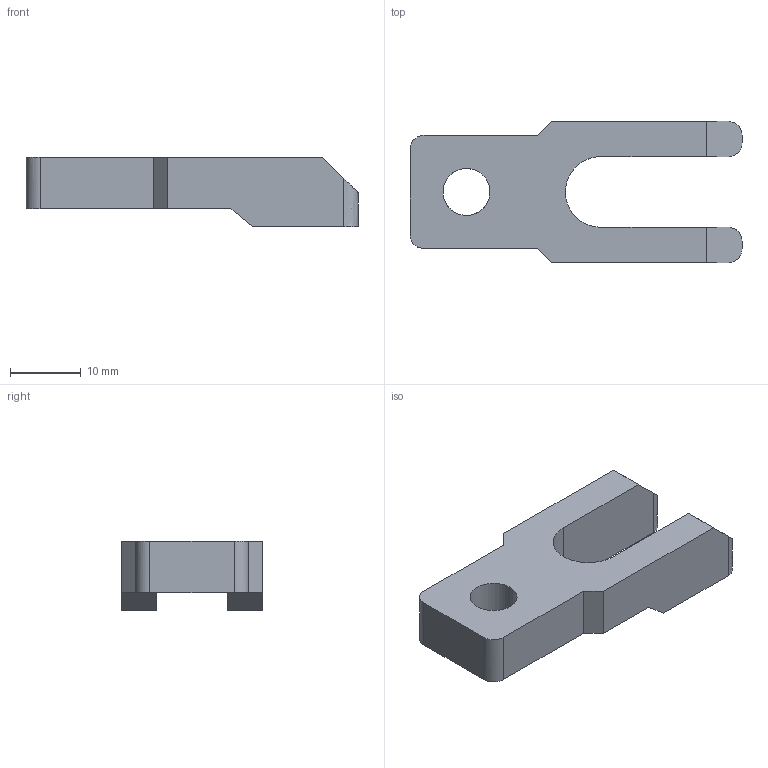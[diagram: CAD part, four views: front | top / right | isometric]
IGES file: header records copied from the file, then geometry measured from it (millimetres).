
Global section: file name: 95.00; native system: Autodesk Inventor 2014; preprocessor: unknown; author: AP; date: 20160505.153922; units: millimetre
Bounding box: 47 x 20 x 9.8 mm (x, y, z)
Volume: 4563.5 mm3; surface area: 2707.6 mm2
Topology: 1 solids, 1 shells, 27 faces, 76 edges, 51 vertices
Faces by surface type: bspline 27
